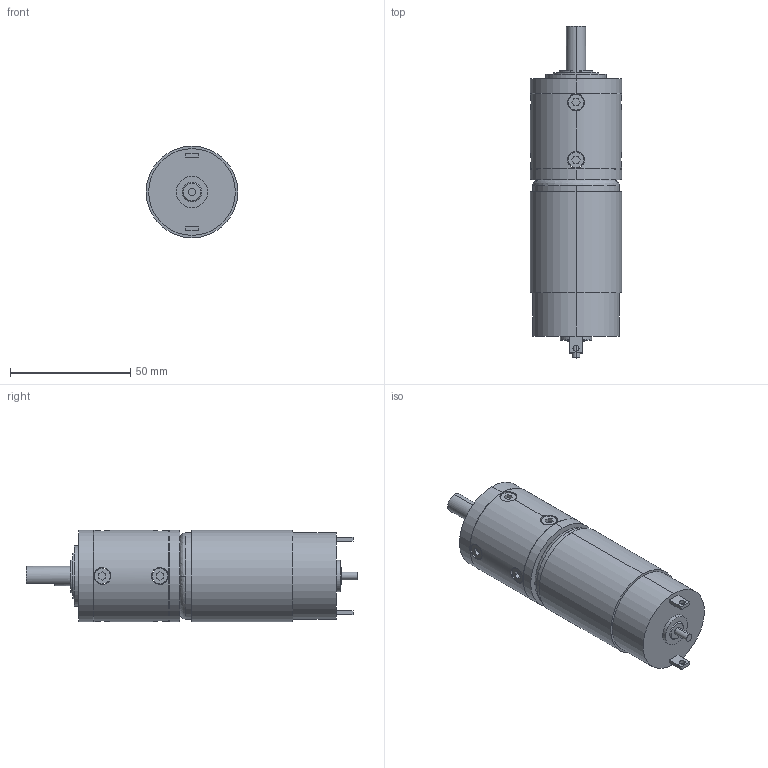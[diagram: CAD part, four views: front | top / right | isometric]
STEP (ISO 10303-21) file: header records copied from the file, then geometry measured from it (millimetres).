
FILE_DESCRIPTION((''),' ');
FILE_NAME('DSMP380_2.stp',' ',('R. Lindner'),('MSW GmbH'),' ','ACIS 14.0',' ');
FILE_SCHEMA(('automotive_design'));
Length unit declared in the file: inch
Products named in the file (167): DSMP380_2
Bounding box: 38 x 137.87 x 38 mm (x, y, z)
Surface area: 17919.1 mm2 (no closed solid volume)
Topology: 0 solids, 168 shells, 168 faces, 808 edges, 808 vertices
Faces by surface type: plane 98, cylinder 62, cone 6, bspline 2
Entity records: 14962 total; most frequent: CARTESIAN_POINT 3059, DIRECTION 1652, ORIENTED_EDGE 808, EDGE_CURVE 808, VERTEX_POINT 808, AXIS2_PLACEMENT_3D 561, LINE 530, VECTOR 530
